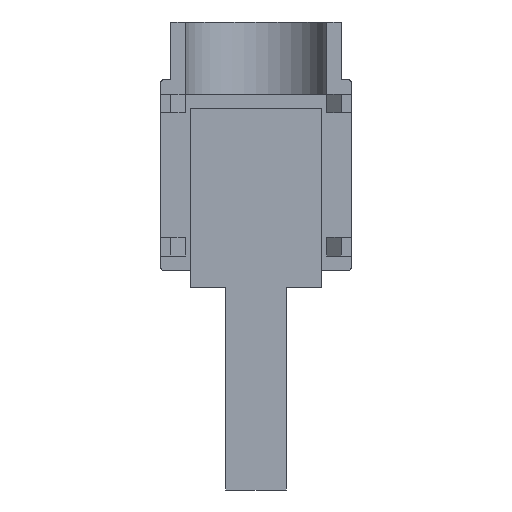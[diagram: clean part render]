
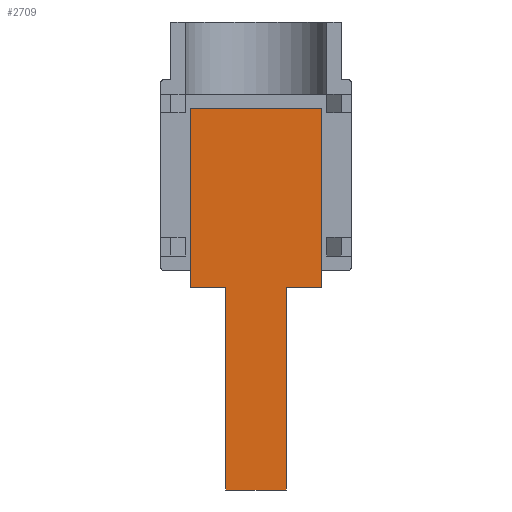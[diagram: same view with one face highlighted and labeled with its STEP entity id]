
A CAD part, front view. The second image highlights one B-rep face of the part: STEP entity #2709.
In plain terms, the highlighted planar face has unit normal (0, -1, 0).
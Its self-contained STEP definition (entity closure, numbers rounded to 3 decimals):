
#129 = ORIENTED_EDGE ( 'NONE', *, *, #1192, .T. ) ;
#130 = ORIENTED_EDGE ( 'NONE', *, *, #1196, .T. ) ;
#131 = ORIENTED_EDGE ( 'NONE', *, *, #1191, .T. ) ;
#132 = ORIENTED_EDGE ( 'NONE', *, *, #1198, .T. ) ;
#133 = ORIENTED_EDGE ( 'NONE', *, *, #1200, .T. ) ;
#134 = ORIENTED_EDGE ( 'NONE', *, *, #1202, .T. ) ;
#135 = ORIENTED_EDGE ( 'NONE', *, *, #1204, .T. ) ;
#136 = ORIENTED_EDGE ( 'NONE', *, *, #1209, .T. ) ;
#584 = FACE_OUTER_BOUND ( 'NONE', #1083, .T. ) ;
#1083 = EDGE_LOOP ( 'NONE', ( #129, #130, #131, #132, #133, #134, #135, #136 ) ) ;
#1191 = EDGE_CURVE ( 'NONE', #2134, #2135, #1675, .T. ) ;
#1192 = EDGE_CURVE ( 'NONE', #2133, #2132, #1689, .T. ) ;
#1196 = EDGE_CURVE ( 'NONE', #2132, #2134, #1702, .T. ) ;
#1198 = EDGE_CURVE ( 'NONE', #2135, #2136, #1691, .T. ) ;
#1200 = EDGE_CURVE ( 'NONE', #2136, #2137, #1710, .T. ) ;
#1202 = EDGE_CURVE ( 'NONE', #2137, #2138, #1714, .T. ) ;
#1204 = EDGE_CURVE ( 'NONE', #2138, #2139, #1693, .T. ) ;
#1209 = EDGE_CURVE ( 'NONE', #2139, #2133, #1723, .T. ) ;
#1621 = AXIS2_PLACEMENT_3D ( 'NONE', #3314, #3321, #3322 ) ;
#1675 = LINE ( 'NONE', #2537, #1692 ) ;
#1689 = LINE ( 'NONE', #2539, #1694 ) ;
#1691 = LINE ( 'NONE', #2541, #1706 ) ;
#1692 = VECTOR ( 'NONE', #2540, 1000. ) ;
#1693 = LINE ( 'NONE', #2553, #1718 ) ;
#1694 = VECTOR ( 'NONE', #2542, 1000. ) ;
#1702 = LINE ( 'NONE', #2549, #1703 ) ;
#1703 = VECTOR ( 'NONE', #2550, 1000. ) ;
#1706 = VECTOR ( 'NONE', #2554, 1000. ) ;
#1710 = LINE ( 'NONE', #2557, #1711 ) ;
#1711 = VECTOR ( 'NONE', #2558, 1000. ) ;
#1714 = LINE ( 'NONE', #2561, #1715 ) ;
#1715 = VECTOR ( 'NONE', #2562, 1000. ) ;
#1718 = VECTOR ( 'NONE', #2566, 1000. ) ;
#1723 = LINE ( 'NONE', #2573, #1728 ) ;
#1728 = VECTOR ( 'NONE', #2576, 1000. ) ;
#2132 = VERTEX_POINT ( 'NONE', #3259 ) ;
#2133 = VERTEX_POINT ( 'NONE', #3260 ) ;
#2134 = VERTEX_POINT ( 'NONE', #3261 ) ;
#2135 = VERTEX_POINT ( 'NONE', #3262 ) ;
#2136 = VERTEX_POINT ( 'NONE', #3263 ) ;
#2137 = VERTEX_POINT ( 'NONE', #3264 ) ;
#2138 = VERTEX_POINT ( 'NONE', #3265 ) ;
#2139 = VERTEX_POINT ( 'NONE', #3266 ) ;
#2537 = CARTESIAN_POINT ( 'NONE',  ( -2.1, -1.9, -7.8 ) ) ;
#2539 = CARTESIAN_POINT ( 'NONE',  ( -4.55, -1.9, 4.6 ) ) ;
#2540 = DIRECTION ( 'NONE',  ( 0., 0., -1. ) ) ;
#2541 = CARTESIAN_POINT ( 'NONE',  ( -2.1, -1.9, -21.8 ) ) ;
#2542 = DIRECTION ( 'NONE',  ( 0., 0., -1. ) ) ;
#2549 = CARTESIAN_POINT ( 'NONE',  ( -4.55, -1.9, -7.8 ) ) ;
#2550 = DIRECTION ( 'NONE',  ( 1., 0., 0. ) ) ;
#2553 = CARTESIAN_POINT ( 'NONE',  ( 4.55, -1.9, 4.6 ) ) ;
#2554 = DIRECTION ( 'NONE',  ( 1., 0., 0. ) ) ;
#2557 = CARTESIAN_POINT ( 'NONE',  ( 2.1, -1.9, -7.8 ) ) ;
#2558 = DIRECTION ( 'NONE',  ( 0., 0., 1. ) ) ;
#2561 = CARTESIAN_POINT ( 'NONE',  ( 4.55, -1.9, -7.8 ) ) ;
#2562 = DIRECTION ( 'NONE',  ( 1., 0., 0. ) ) ;
#2566 = DIRECTION ( 'NONE',  ( 0., 0., 1. ) ) ;
#2573 = CARTESIAN_POINT ( 'NONE',  ( 4.55, -1.9, 4.6 ) ) ;
#2576 = DIRECTION ( 'NONE',  ( -1., 0., 0. ) ) ;
#2709 = ADVANCED_FACE ( 'NONE', ( #584 ), #3315, .T. ) ;
#3259 = CARTESIAN_POINT ( 'NONE',  ( -4.55, -1.9, -7.8 ) ) ;
#3260 = CARTESIAN_POINT ( 'NONE',  ( -4.55, -1.9, 4.6 ) ) ;
#3261 = CARTESIAN_POINT ( 'NONE',  ( -2.1, -1.9, -7.8 ) ) ;
#3262 = CARTESIAN_POINT ( 'NONE',  ( -2.1, -1.9, -21.8 ) ) ;
#3263 = CARTESIAN_POINT ( 'NONE',  ( 2.1, -1.9, -21.8 ) ) ;
#3264 = CARTESIAN_POINT ( 'NONE',  ( 2.1, -1.9, -7.8 ) ) ;
#3265 = CARTESIAN_POINT ( 'NONE',  ( 4.55, -1.9, -7.8 ) ) ;
#3266 = CARTESIAN_POINT ( 'NONE',  ( 4.55, -1.9, 4.6 ) ) ;
#3314 = CARTESIAN_POINT ( 'NONE',  ( -4.55, -1.9, -7.8 ) ) ;
#3315 = PLANE ( 'NONE',  #1621 ) ;
#3321 = DIRECTION ( 'NONE',  ( 0., -1., 0. ) ) ;
#3322 = DIRECTION ( 'NONE',  ( 1., 0., 0. ) ) ;
